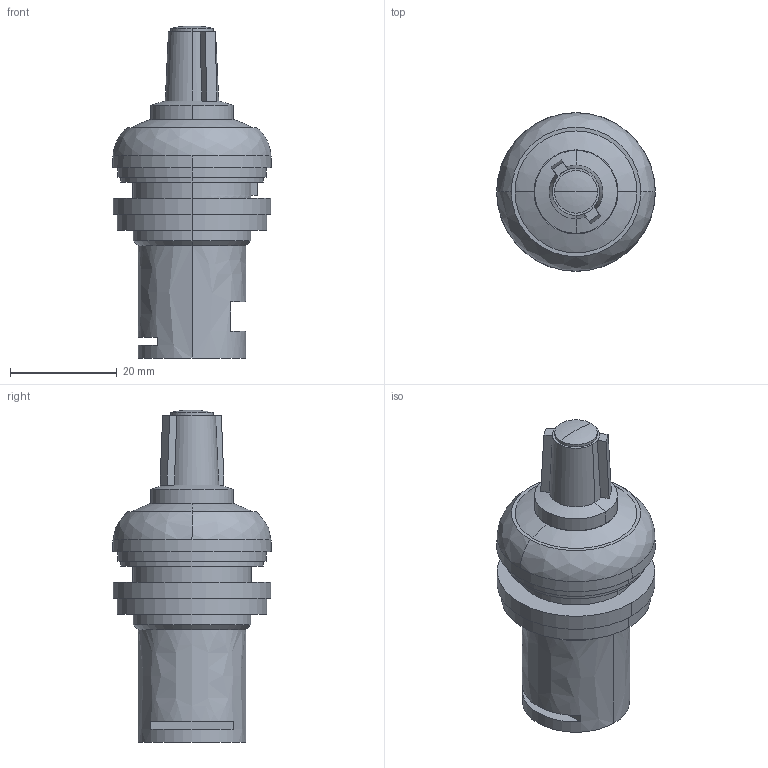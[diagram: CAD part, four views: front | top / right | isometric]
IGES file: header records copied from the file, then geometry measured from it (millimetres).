
Start section: Data from XPlus IGES,  Spatial Corp. Copyright (c) 1999-2004
Global section: file name: 229491.igs; native system:  By Spatial Corp.; preprocessor: XPlus ACIS/IGES 3.0; author: Noname; organization: Noname; date: 20120529.223047; units: millimetre
Bounding box: 29.7 x 29.7 x 62.1 mm (x, y, z)
Surface area: 5714 mm2 (no closed solid volume)
Topology: 0 solids, 0 shells, 63 faces, 280 edges, 278 vertices
Faces by surface type: revolution 32, extrusion 31
